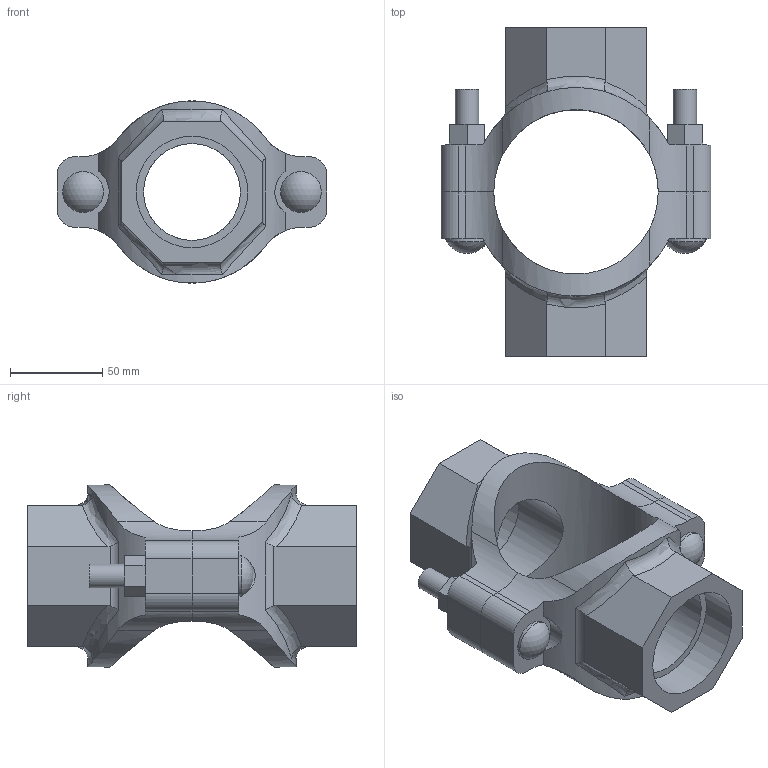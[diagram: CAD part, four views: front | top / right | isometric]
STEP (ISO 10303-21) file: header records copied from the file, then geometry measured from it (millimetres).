
FILE_DESCRIPTION(/* description */ ('VIC MECH-T BRANCH OUTLET CROSS STYLE 920N (THD)','CAx-IF Rec.Pracs.---Representation and Presentation of Product Manufacturing Information (PMI)---4.0---2014-10-13'),/* implementation_level */ '2;1');
FILE_NAME(/* name */ 'C:\Users\Vjadhav\AppData\Roaming\Autodesk\ApplicationPlugins\Back Up\Victaulic_IPS_Mechanical-Cross Outlet_Style 920N (FPT)\Victaulic_IPS_Mechanical-Cross Outlet_03.0x02.0x02.0 (80x50x50).stp',/* time_stamp */ '2020-08-06T18:57:49+05:00',/* author */ ('Vjadhav'),/* organization */ ('Victaulic'),/* preprocessor_version */ 'ST-DEVELOPER v17.2',/* originating_system */ 'Autodesk Inventor 2019',/* authorisation */ '');
FILE_SCHEMA (('AP242_MANAGED_MODEL_BASED_3D_ENGINEERING_MIM_LF { 1 0 10303 442 1 1 4 }'));
Length unit declared in the file: inch
Products named in the file (3): 920NT-03.0x02.0x02.0; 920NT-03.0x02.0; 920NT-03.0x02.0_1
Assembly tree (2 placements, depth 2):
  920NT-03.0x02.0x02.0
    920NT-03.0x02.0
    920NT-03.0x02.0_1
Bounding box: 146.05 x 177.8 x 98.48 mm (x, y, z)
Volume: 453326 mm3; surface area: 103418.4 mm2
Topology: 2 solids, 2 shells, 132 faces, 350 edges, 236 vertices
Faces by surface type: plane 68, cylinder 50, bspline 8, torus 4, sphere 2
Full cylindrical faces by diameter (mm): 12.7 x4, 21.982 x2, 52.387 x2, 60.325 x2
Entity records: 5202 total; most frequent: CARTESIAN_POINT 1689, ORIENTED_EDGE 700, DIRECTION 648, EDGE_CURVE 350, VERTEX_POINT 236, AXIS2_PLACEMENT_3D 231, LINE 186, VECTOR 186
